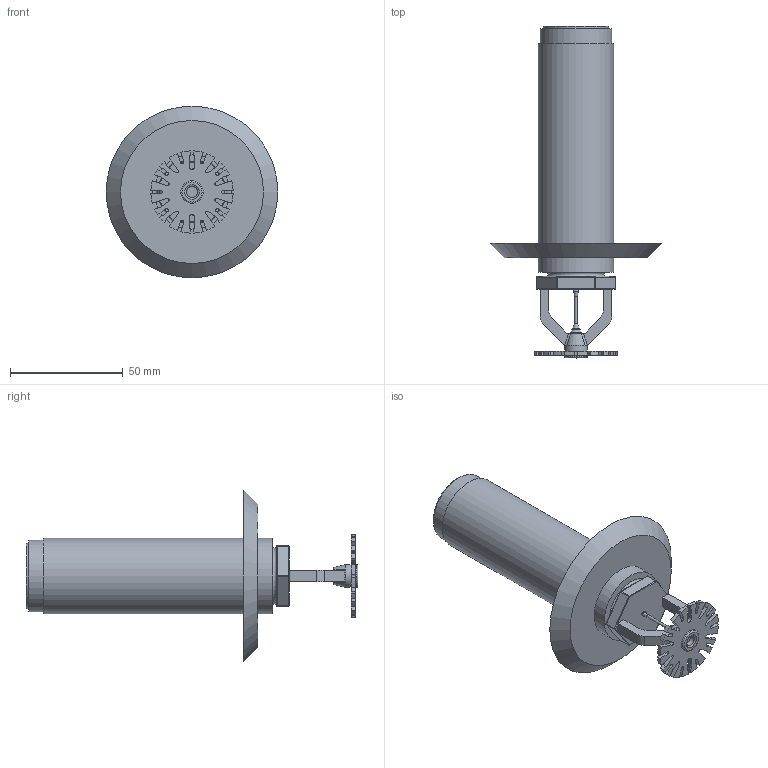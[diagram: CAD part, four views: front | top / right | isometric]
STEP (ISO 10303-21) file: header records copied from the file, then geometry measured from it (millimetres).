
FILE_DESCRIPTION(/* description */ ('VIC SPRINKLER V3608 K8.0 DRY PENDENT QUICK RESPONSE (NPT)','CAx-IF Rec.Pracs.---Representation and Presentation of Product Manufacturing Information (PMI)---4.0---2014-10-13'),/* implementation_level */ '2;1');
FILE_NAME(/* name */ 'C:\Users\kkamble\AppData\Roaming\Autodesk\ApplicationPlugins\Victaulic.Temp\A425\Victaulic_FP-Sprinkler_V3608_DRY_QR_Pendent (NPT)_FLUSH_1 (25).stp',/* time_stamp */ '2021-03-29T16:31:13+05:00',/* author */ ('kkamble'),/* organization */ ('Victaulic'),/* preprocessor_version */ 'ST-DEVELOPER v17.2',/* originating_system */ 'Autodesk Inventor 2019',/* authorisation */ '');
FILE_SCHEMA (('AP242_MANAGED_MODEL_BASED_3D_ENGINEERING_MIM_LF { 1 0 10303 442 1 1 4 }'));
Length unit declared in the file: inch
Products named in the file (2): V3608_Flush-01.0; V3608-01.0
Assembly tree (1 placements, depth 2):
  V3608_Flush-01.0
    V3608-01.0
Bounding box: 76.2 x 147.32 x 76.2 mm (x, y, z)
Volume: 63582.5 mm3; surface area: 34157.8 mm2
Topology: 1 solids, 1 shells, 226 faces, 617 edges, 398 vertices
Faces by surface type: plane 107, cylinder 87, sphere 12, bspline 9, cone 6, torus 5
Full cylindrical faces by diameter (mm): 1.27 x1, 5.08 x2, 10.16 x2, 20.93 x1, 26.645 x1, 29.185 x1, 31.725 x1, 33.401 x2
Entity records: 7763 total; most frequent: CARTESIAN_POINT 1603, DIRECTION 1261, ORIENTED_EDGE 1226, EDGE_CURVE 613, AXIS2_PLACEMENT_3D 459, VERTEX_POINT 398, LINE 343, VECTOR 343
